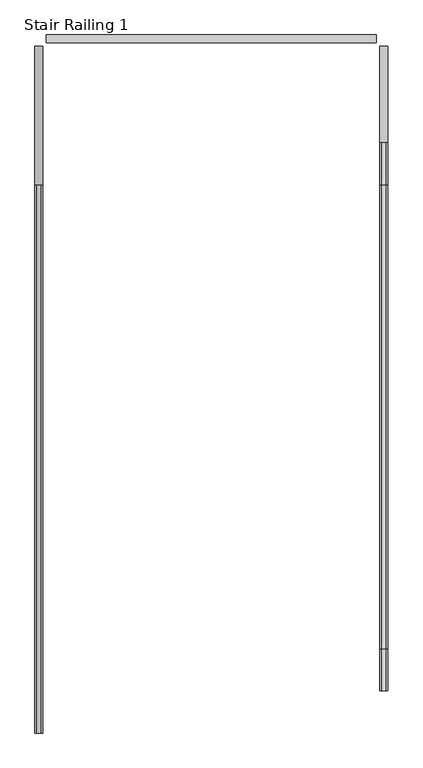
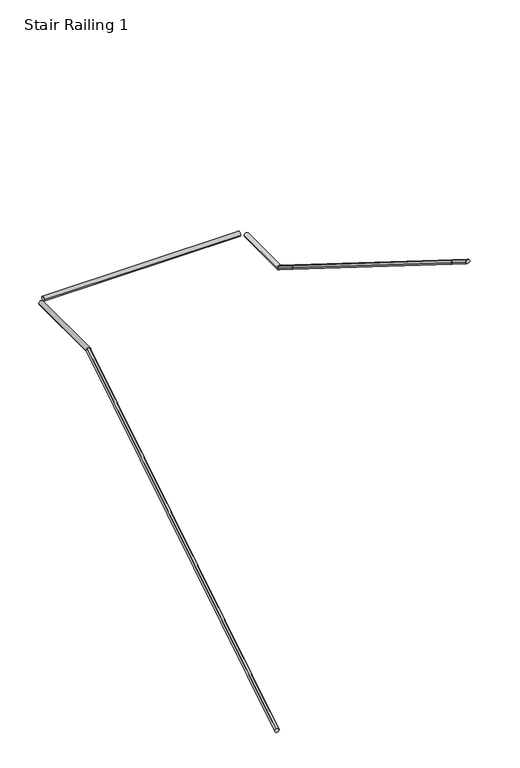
"""IFC4 building model written with IfcOpenShell, lengths in millimetres: railing geometry, Stair Railing 1."""

import ifcopenshell
import ifcopenshell.guid

model = None  # the IFC model being written
_history = None  # IfcOwnerHistory: only IFC2X3 demands one
_inside = {}  # id of a spatial element -> (the spatial element, [elements in it])
_under = {}  # id of a project, library or spatial element -> (it, [spatial elements below it])
_declared = {}  # id of a project -> (the project, [libraries it declares])
_typed = {}  # id of a type object -> (the type object, [elements of that type])
_made_of = {}  # id of a material, layer set ... -> (it, [elements and type objects made of it])


def new_model(schema):
    """Start an empty IFC model of exactly this schema.

    Asked for "IFC4X3", IfcOpenShell would pick the latest addendum, in which some entities
    have other attributes; the version numbers below select the first issue.
    IFC2X3 requires an IfcOwnerHistory on every rooted entity: one is made here for all.
    """
    global model, _history
    if schema == "IFC4X3":
        model = ifcopenshell.file(schema_version=(4, 3, 0, 0))
    else:
        model = ifcopenshell.file(schema=schema)
    _inside.clear()
    _under.clear()
    _declared.clear()
    _typed.clear()
    _made_of.clear()
    _history = None
    if model.schema == "IFC2X3":
        org = make("IfcOrganization", Name="unknown")
        user = make(
            "IfcPersonAndOrganization",
            ThePerson=make("IfcPerson", FamilyName="unknown"),
            TheOrganization=org,
        )
        app = make(
            "IfcApplication",
            ApplicationDeveloper=org,
            Version="unknown",
            ApplicationFullName="unknown",
            ApplicationIdentifier="unknown",
        )
        _history = make(
            "IfcOwnerHistory",
            OwningUser=user,
            OwningApplication=app,
            ChangeAction="ADDED",
            CreationDate=0,
        )
    return model


def make(cls, **values):
    """One entity of the class cls with the attributes given. An attribute that is None is left unset."""
    return model.create_entity(
        cls, **{name: value for name, value in values.items() if value is not None}
    )


def rooted(cls, **values):
    """An entity with a GlobalId (a new one), such as an element, a storey or a relation."""
    return make(cls, GlobalId=ifcopenshell.guid.new(), OwnerHistory=_history, **values)


def si_unit(unit_type, name, prefix=None):
    """IfcSIUnit, for example si_unit("LENGTHUNIT", "METRE", prefix="MILLI")."""
    return make("IfcSIUnit", UnitType=unit_type, Prefix=prefix, Name=name)


def assignment(units):
    """IfcUnitAssignment: the units of a project."""
    return None if units is None else make("IfcUnitAssignment", Units=units)


def point(xyz):
    """IfcCartesianPoint."""
    return None if xyz is None else make("IfcCartesianPoint", Coordinates=xyz)


def direction(xyz):
    """IfcDirection."""
    return None if xyz is None else make("IfcDirection", DirectionRatios=xyz)


def frame(location, z_axis=None, x_axis=None):
    """IfcAxis2Placement3D, a coordinate frame: its origin and axes. An axis left out is left unset."""
    return make(
        "IfcAxis2Placement3D",
        Location=point(location),
        Axis=direction(z_axis),
        RefDirection=direction(x_axis),
    )


def origin():
    """The frame at (0, 0, 0) with its axes left unset."""
    return frame((0.0, 0.0, 0.0))


def place(relative_to, where):
    """IfcLocalPlacement: puts the frame where relative to a parent placement (None: the world)."""
    return make(
        "IfcLocalPlacement", PlacementRelTo=relative_to, RelativePlacement=where
    )


def context(
    kind, dimensions, precision=None, world=None, true_north=None, identifier=None
):
    """IfcGeometricRepresentationContext, for example the 3D "Model" context."""
    return make(
        "IfcGeometricRepresentationContext",
        ContextIdentifier=identifier,
        ContextType=kind,
        CoordinateSpaceDimension=dimensions,
        Precision=precision,
        WorldCoordinateSystem=world,
        TrueNorth=true_north,
    )


def project(units=None, contexts=None):
    """IfcProject with its units and contexts."""
    return rooted(
        "IfcProject",
        Name="project",
        RepresentationContexts=contexts,
        UnitsInContext=assignment(units),
    )


def spatial(cls, under=None, at=None, **own):
    """A site, building, storey or space (cls), placed at a placement, below another one or the project."""
    s = rooted(cls, ObjectPlacement=at, **own)
    if under is not None:
        _under.setdefault(under.id(), (under, []))[1].append(s)
    return s


def circle_curve(where, radius):
    """IfcCircle in the frame where."""
    return make("IfcCircle", Position=where, Radius=radius)


def faces_of(points, faces, orient=None, outer=None):
    """IfcFace entities. A face is a list of loops; a loop is a list of indices into points, from 0.

    orient and outer hold one flag for each loop. By default every Orientation is true, the
    first loop of a face is its IfcFaceOuterBound and the others are IfcFaceBound.
    """
    made = []
    for i, loops in enumerate(faces):
        bounds = []
        for j, loop in enumerate(loops):
            is_outer = j == 0 if outer is None else outer[i][j]
            bounds.append(
                make(
                    "IfcFaceOuterBound" if is_outer else "IfcFaceBound",
                    Bound=make("IfcPolyLoop", Polygon=[points[k] for k in loop]),
                    Orientation=True if orient is None else orient[i][j],
                )
            )
        made.append(make("IfcFace", Bounds=bounds))
    return made


def faceted_brep(points, faces, orient=None, outer=None, voids=None):
    """IfcFacetedBrep: a solid bounded by flat faces; with voids (closed shells), ...WithVoids."""
    shared = [point(p) for p in points]
    hull = make("IfcClosedShell", CfsFaces=faces_of(shared, faces, orient, outer))
    if voids is None:
        return make("IfcFacetedBrep", Outer=hull)
    return make(
        "IfcFacetedBrepWithVoids",
        Outer=hull,
        Voids=[
            make(cls, CfsFaces=faces_of(shared, fs, o, b)) for cls, fs, o, b in voids
        ],
    )


def shape(context_of_items, identifier, shape_type, items):
    """IfcShapeRepresentation: the items that make up one representation, for example the "Body"."""
    return make(
        "IfcShapeRepresentation",
        ContextOfItems=context_of_items,
        RepresentationIdentifier=identifier,
        RepresentationType=shape_type,
        Items=items,
    )


def source(mapping_origin, context_of_items, identifier, shape_type, items):
    """IfcRepresentationMap: a shape defined once, which mapped items show again and again."""
    return make(
        "IfcRepresentationMap",
        MappingOrigin=mapping_origin,
        MappedRepresentation=shape(context_of_items, identifier, shape_type, items),
    )


def transform(
    local_origin,
    x_axis=None,
    y_axis=None,
    z_axis=None,
    scale=None,
    scale2=None,
    scale3=None,
    uniform=True,
):
    """IfcCartesianTransformationOperator3D, or its non-uniform kind. x_axis, y_axis, z_axis: its Axis1, 2, 3."""
    if uniform:
        return make(
            "IfcCartesianTransformationOperator3D",
            Axis1=direction(x_axis),
            Axis2=direction(y_axis),
            LocalOrigin=point(local_origin),
            Scale=scale,
            Axis3=direction(z_axis),
        )
    return make(
        "IfcCartesianTransformationOperator3DnonUniform",
        Axis1=direction(x_axis),
        Axis2=direction(y_axis),
        LocalOrigin=point(local_origin),
        Scale=scale,
        Axis3=direction(z_axis),
        Scale2=scale2,
        Scale3=scale3,
    )


def mapped(mapping_source, mapping_target):
    """IfcMappedItem: shows the shape of a source again, moved by a transform."""
    return make(
        "IfcMappedItem", MappingSource=mapping_source, MappingTarget=mapping_target
    )


def made_of(thing, what):
    """Note that an element or type object is made of a material, layer set ...; save() writes the relation."""
    if what is not None:
        _made_of.setdefault(what.id(), (what, []))[1].append(thing)
    return thing


def element(
    cls,
    number,
    at=None,
    inside=None,
    cuts=None,
    type_object=None,
    material=None,
    context=None,
    identifier="Body",
    shape_type=None,
    held_by="IfcProductDefinitionShape",
    body=None,
    shapes=None,
    **own,
):
    """One element of the class cls, such as IfcWall. Its Tag is "e" and its number.

    at: its placement. inside: the storey or other place that contains it. cuts: it is an
    opening in that element (IfcRelVoidsElement). A single representation is given by context,
    identifier, shape_type and body (its items); several are given by shapes. held_by: the class
    of the entity that holds the representations. save() writes the other relations.
    """
    e = rooted(cls, Tag="e%d" % number, ObjectPlacement=at, **own)
    if body is not None:
        shapes = [shape(context, identifier, shape_type, body)]
    if shapes is not None:
        e.Representation = make(held_by, Representations=shapes)
    if inside is not None:
        _inside.setdefault(inside.id(), (inside, []))[1].append(e)
    if cuts is not None:
        rooted(
            "IfcRelVoidsElement", RelatingBuildingElement=cuts, RelatedOpeningElement=e
        )
    if type_object is not None:
        _typed.setdefault(type_object.id(), (type_object, []))[1].append(e)
    return made_of(e, material)


def aggregate(whole, parts):
    """IfcRelAggregates: a whole, such as a stair, and the parts it consists of."""
    return rooted("IfcRelAggregates", RelatingObject=whole, RelatedObjects=parts)


def save(model, path):
    """Write the relations noted so far, then the file.

    IfcRelAggregates (storeys below a building ...), IfcRelContainedInSpatialStructure (elements
    in a storey), IfcRelDefinesByType, IfcRelAssociatesMaterial and IfcRelDeclares: one each for
    every whole, place, type object, material and project.
    """
    for whole, parts in _under.values():
        aggregate(whole, parts)
    for where, things in _inside.values():
        rooted(
            "IfcRelContainedInSpatialStructure",
            RelatedElements=things,
            RelatingStructure=where,
        )
    for kind, things in _typed.values():
        rooted("IfcRelDefinesByType", RelatedObjects=things, RelatingType=kind)
    for what, things in _made_of.values():
        rooted("IfcRelAssociatesMaterial", RelatedObjects=things, RelatingMaterial=what)
    for by, libraries in _declared.values():
        rooted("IfcRelDeclares", RelatingContext=by, RelatedDefinitions=libraries)
    model.write(path)


def plane_surface(at):
    """IfcPlane: the flat surface through the origin of the frame at, square to its z axis."""
    return make("IfcPlane", Position=at)


def cylinder_surface(at, radius):
    """IfcCylindricalSurface: all points at the distance radius from the z axis of the frame at."""
    return make("IfcCylindricalSurface", Position=at, Radius=radius)


def advanced_brep(points, edges, surfaces, faces):
    """IfcAdvancedBrep: a solid bounded by faces that lie on surfaces and meet in shared edges.

    An edge is (start, end): straight between two places in points (the first is 0);
    or (start, end, curve); or (start, end, curve, False) where it runs against its curve.
    A face is (place in surfaces, loops), or (place, loops, False) where it looks against
    its surface's normal. A loop lists edges by number (the first is 1), with a minus sign
    where the edge is run from its end to its start. The first loop is the outer one.
    """
    corners = [point(p) for p in points]
    vertices = [make("IfcVertexPoint", VertexGeometry=c) for c in corners]
    made = []
    for start, end, *more in edges:
        made.append(
            make(
                "IfcEdgeCurve",
                EdgeStart=vertices[start],
                EdgeEnd=vertices[end],
                EdgeGeometry=more[0] if more else make("IfcPolyline", Points=[corners[start], corners[end]]),
                SameSense=more[1] if len(more) > 1 else True,
            )
        )
    hull = []
    for where, loops, *sense in faces:
        bounds = []
        for j, loop in enumerate(loops):
            ring = [make("IfcOrientedEdge", EdgeElement=made[abs(k) - 1], Orientation=k > 0) for k in loop]
            bounds.append(
                make(
                    "IfcFaceOuterBound" if j == 0 else "IfcFaceBound",
                    Bound=make("IfcEdgeLoop", EdgeList=ring),
                    Orientation=True,
                )
            )
        hull.append(make("IfcAdvancedFace", Bounds=bounds, FaceSurface=surfaces[where], SameSense=sense[0] if sense else True))
    return make("IfcAdvancedBrep", Outer=make("IfcClosedShell", CfsFaces=hull))


def stair_railing_1_835fd4d1(model_context):
    return source(origin(), model_context, "Body", "SolidModel", [
        faceted_brep([(-2482.1134126, 56357.2066802, 9028.2888889), (-2469.4134126, 56357.2066802, 9050.2859341), (-2444.0134126, 56357.2066802, 9050.2859341), (-2431.3134126, 56357.2066802, 9028.2888889), (-2444.0134126, 56357.2066802, 9006.2918436), (-2469.4134126, 56357.2066802, 9006.2918436), (-2482.1134126, 52725.0066802, 6753.5777778), (-2469.4134126, 52725.0066802, 6731.5807325), (-2444.0134126, 52725.0066802, 6731.5807325), (-2431.3134126, 52725.0066802, 6753.5777778), (-2444.0134126, 52725.0066802, 6775.574823), (-2469.4134126, 52725.0066802, 6775.574823)], [[[0, 1, 2, 3, 4, 5]], [[6, 7, 8, 9, 10, 11]], [[1, 0, 6, 11]], [[2, 1, 11, 10]], [[3, 2, 10, 9]], [[4, 3, 9, 8]], [[5, 4, 8, 7]], [[0, 5, 7, 6]]]),
        advanced_brep(
        [(-2482.1134126, 57271.6066802, 9028.2888889), (-2431.3134126, 57271.6066802, 9028.2888889), (-2482.1134126, 56357.2066802, 9028.2888889), (-2431.3134126, 56357.2066802, 9028.2888889)],
        [
            (0, 1, circle_curve(frame((-2456.7134126, 57271.6066802, 9028.2888889), z_axis=(0.0, 1.0, 0.0), x_axis=(-0.9999999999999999, 0.0, 0.0)), 25.4)),
            (1, 0, circle_curve(frame((-2456.7134126, 57271.6066802, 9028.2888889), z_axis=(0.0, 1.0, 0.0), x_axis=(-0.9999999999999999, 0.0, 0.0)), 25.4)),
            (2, 3, circle_curve(frame((-2456.7134126, 56357.2066802, 9028.2888889), z_axis=(0.0, -1.0, 0.0), x_axis=(-0.9999999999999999, 0.0, 0.0)), 25.4)),
            (3, 2, circle_curve(frame((-2456.7134126, 56357.2066802, 9028.2888889), z_axis=(0.0, -1.0, 0.0), x_axis=(-0.9999999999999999, 0.0, 0.0)), 25.4)),
            (0, 2),
            (3, 1),
        ],
        [
            plane_surface(frame((-2482.1134126, 57271.6066802, 9002.8888889), z_axis=(0.0, 1.0, 0.0), x_axis=(0.0, 0.0, 1.0))),
            plane_surface(frame((-2482.1134126, 56357.2066802, 9002.8888889), z_axis=(0.0, -1.0, 0.0), x_axis=(0.0, 0.0, -1.0))),
            cylinder_surface(frame((-2456.7134126, 56357.2066802, 9028.2888889), z_axis=(0.0, 0.9999999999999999, 0.0), x_axis=(-0.9999999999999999, 0.0, 0.0)), 25.4),
        ],
        [
            (0, [[1, 2]]),
            (1, [[3, 4]]),
            (2, [[-1, 5, -4, 6]]),
            (2, [[-2, -6, -3, -5]]),
        ],
    ),
        advanced_brep(
        [(-222.5891104, 57347.8066802, 9028.2888889), (-222.5891104, 57297.0066802, 9028.2888889), (-2405.9134126, 57347.8066802, 9028.2888889), (-2405.9134126, 57297.0066802, 9028.2888889)],
        [
            (0, 1, circle_curve(frame((-222.5891104, 57322.4066802, 9028.2888889), z_axis=(1.0, 0.0, 0.0), x_axis=(0.0, 1.0, 0.0)), 25.4)),
            (1, 0, circle_curve(frame((-222.5891104, 57322.4066802, 9028.2888889), z_axis=(1.0, 0.0, 0.0), x_axis=(0.0, 1.0, 0.0)), 25.4)),
            (2, 3, circle_curve(frame((-2405.9134126, 57322.4066802, 9028.2888889), z_axis=(-1.0, 0.0, 0.0), x_axis=(0.0, 1.0, 0.0)), 25.4)),
            (3, 2, circle_curve(frame((-2405.9134126, 57322.4066802, 9028.2888889), z_axis=(-1.0, 0.0, 0.0), x_axis=(0.0, 1.0, 0.0)), 25.4)),
            (0, 2),
            (3, 1),
        ],
        [
            plane_surface(frame((-222.5891104, 57347.8066802, 9002.8888889), z_axis=(1.0, 0.0, 0.0), x_axis=(0.0, 1.0, 0.0))),
            plane_surface(frame((-2405.9134126, 57347.8066802, 9002.8888889), z_axis=(-1.0, 0.0, 0.0), x_axis=(0.0, -1.0, 0.0))),
            cylinder_surface(frame((-2405.9134126, 57322.4066802, 9028.2888889), z_axis=(1.0, 0.0, 0.0), x_axis=(0.0, 1.0, 0.0)), 25.4),
        ],
        [
            (0, [[1, 2]]),
            (1, [[3, 4]]),
            (2, [[-1, 5, -4, 6]]),
            (2, [[-2, -6, -3, -5]]),
        ],
    ),
        advanced_brep(
        [(-146.3891104, 56636.6066802, 9028.2888889), (-197.1891104, 56636.6066802, 9028.2888889), (-146.3891104, 57271.6066802, 9028.2888889), (-197.1891104, 57271.6066802, 9028.2888889)],
        [
            (0, 1, circle_curve(frame((-171.7891104, 56636.6066802, 9028.2888889), z_axis=(0.0, -1.0, 0.0), x_axis=(1.0, 0.0, 0.0)), 25.4)),
            (1, 0, circle_curve(frame((-171.7891104, 56636.6066802, 9028.2888889), z_axis=(0.0, -1.0, 0.0), x_axis=(1.0, 0.0, 0.0)), 25.4)),
            (2, 3, circle_curve(frame((-171.7891104, 57271.6066802, 9028.2888889), z_axis=(0.0, 1.0, 0.0), x_axis=(1.0, 0.0, 0.0)), 25.4)),
            (3, 2, circle_curve(frame((-171.7891104, 57271.6066802, 9028.2888889), z_axis=(0.0, 1.0, 0.0), x_axis=(1.0, 0.0, 0.0)), 25.4)),
            (0, 2),
            (3, 1),
        ],
        [
            plane_surface(frame((-146.3891104, 56636.6066802, 9002.8888889), z_axis=(0.0, -1.0, 0.0), x_axis=(0.0, 0.0, -1.0))),
            plane_surface(frame((-146.3891104, 57271.6066802, 9002.8888889), z_axis=(0.0, 1.0, 0.0), x_axis=(0.0, 0.0, 1.0))),
            cylinder_surface(frame((-171.7891104, 57271.6066802, 9028.2888889), z_axis=(0.0, -1.0, 0.0), x_axis=(1.0, 0.0, 0.0)), 25.4),
        ],
        [
            (0, [[1, 2]]),
            (1, [[3, 4]]),
            (2, [[-1, 5, -4, 6]]),
            (2, [[-2, -6, -3, -5]]),
        ],
    ),
        faceted_brep([(-146.3891104, 56357.2066802, 9203.2666667), (-159.0891104, 56357.2066802, 9225.2637119), (-184.4891104, 56357.2066802, 9225.2637119), (-197.1891104, 56357.2066802, 9203.2666667), (-184.4891104, 56357.2066802, 9181.2696214), (-159.0891104, 56357.2066802, 9181.2696214), (-146.3891104, 56636.6066802, 9028.2888889), (-159.0891104, 56636.6066802, 9006.2918436), (-184.4891104, 56636.6066802, 9006.2918436), (-197.1891104, 56636.6066802, 9028.2888889), (-184.4891104, 56636.6066802, 9050.2859341), (-159.0891104, 56636.6066802, 9050.2859341)], [[[0, 1, 2, 3, 4, 5]], [[6, 7, 8, 9, 10, 11]], [[1, 0, 6, 11]], [[2, 1, 11, 10]], [[3, 2, 10, 9]], [[4, 3, 9, 8]], [[5, 4, 8, 7]], [[0, 5, 7, 6]]]),
        faceted_brep([(-146.3891104, 53283.8066802, 11128.0222222), (-159.0891104, 53283.8066802, 11150.0192675), (-184.4891104, 53283.8066802, 11150.0192675), (-197.1891104, 53283.8066802, 11128.0222222), (-184.4891104, 53283.8066802, 11106.025177), (-159.0891104, 53283.8066802, 11106.025177), (-146.3891104, 56357.2066802, 9203.2666667), (-159.0891104, 56357.2066802, 9181.2696214), (-184.4891104, 56357.2066802, 9181.2696214), (-197.1891104, 56357.2066802, 9203.2666667), (-184.4891104, 56357.2066802, 9225.2637119), (-159.0891104, 56357.2066802, 9225.2637119)], [[[0, 1, 2, 3, 4, 5]], [[6, 7, 8, 9, 10, 11]], [[1, 0, 6, 11]], [[2, 1, 11, 10]], [[3, 2, 10, 9]], [[4, 3, 9, 8]], [[5, 4, 8, 7]], [[0, 5, 7, 6]]]),
        faceted_brep([(-146.3891104, 53004.4066802, 11303.0), (-159.0891104, 53004.4066802, 11324.9970453), (-184.4891104, 53004.4066802, 11324.9970453), (-197.1891104, 53004.4066802, 11303.0), (-184.4891104, 53004.4066802, 11281.0029547), (-159.0891104, 53004.4066802, 11281.0029547), (-146.3891104, 53283.8066802, 11128.0222222), (-159.0891104, 53283.8066802, 11106.025177), (-184.4891104, 53283.8066802, 11106.025177), (-197.1891104, 53283.8066802, 11128.0222222), (-184.4891104, 53283.8066802, 11150.0192675), (-159.0891104, 53283.8066802, 11150.0192675)], [[[0, 1, 2, 3, 4, 5]], [[6, 7, 8, 9, 10, 11]], [[1, 0, 6, 11]], [[2, 1, 11, 10]], [[3, 2, 10, 9]], [[4, 3, 9, 8]], [[5, 4, 8, 7]], [[0, 5, 7, 6]]]),
    ])


if __name__ == "__main__":
    model = new_model("IFC4")
    model_context = context("Model", 3, world=origin())
    ifc_project = project(units=[si_unit("LENGTHUNIT", "METRE", prefix="MILLI")], contexts=[model_context])
    site = spatial("IfcSite", under=ifc_project)
    building = spatial("IfcBuilding", under=site)
    placement = place(None, origin())
    stair_railing_1_shape = stair_railing_1_835fd4d1(model_context)
    element("IfcRailing", 1, ObjectType="Stair Railing 1", at=placement, inside=building, context=model_context, shape_type="MappedRepresentation", body=[
        mapped(stair_railing_1_shape, transform((0.0, 0.0, 0.0), x_axis=(1.0, 0.0, 0.0), y_axis=(0.0, 1.0, 0.0), z_axis=(0.0, 0.0, 1.0))),
    ])
    save(model, "model.ifc")
